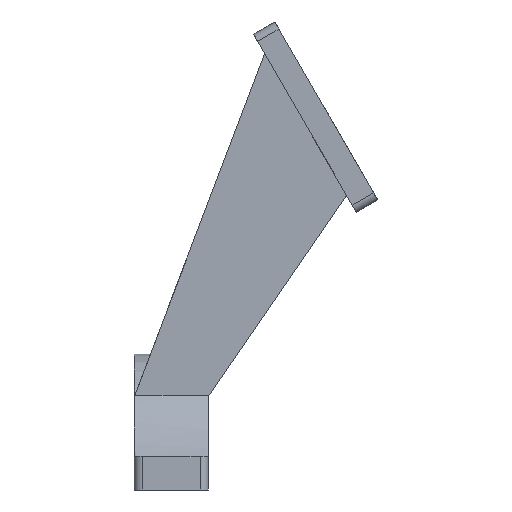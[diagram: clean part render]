
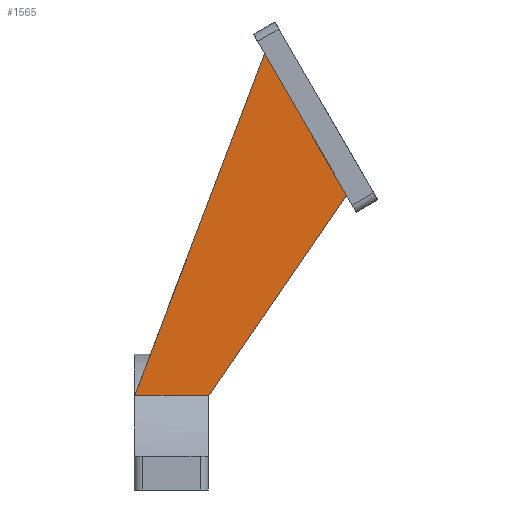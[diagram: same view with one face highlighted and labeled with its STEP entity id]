
A CAD part, front view. The second image highlights one B-rep face of the part: STEP entity #1565.
In plain terms, the highlighted planar face has unit normal (0, -1, 0).
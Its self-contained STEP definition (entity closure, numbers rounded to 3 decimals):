
#33 = CYLINDRICAL_SURFACE('',#34,33.8);
#34 = AXIS2_PLACEMENT_3D('',#35,#36,#37);
#35 = CARTESIAN_POINT('',(-54.,0.,0.));
#36 = DIRECTION('',(-1.,-0.,-0.));
#37 = DIRECTION('',(0.,1.,0.));
#307 = PLANE('',#308);
#308 = AXIS2_PLACEMENT_3D('',#309,#310,#311);
#309 = CARTESIAN_POINT('',(-36.,0.,0.)
  );
#310 = DIRECTION('',(1.,0.,0.));
#311 = DIRECTION('',(-0.,0.,1.));
#454 = VERTEX_POINT('',#455);
#455 = CARTESIAN_POINT('',(-53.886,-24.,23.8));
#473 = PLANE('',#474);
#474 = AXIS2_PLACEMENT_3D('',#475,#476,#477);
#475 = CARTESIAN_POINT('',(-22.048,-20.,107.571));
#476 = DIRECTION('',(0.935,0.,-0.355));
#477 = DIRECTION('',(-0.355,0.,-0.935));
#485 = EDGE_CURVE('',#486,#454,#488,.T.);
#486 = VERTEX_POINT('',#487);
#487 = CARTESIAN_POINT('',(-36.,-24.,23.8));
#488 = SURFACE_CURVE('',#489,(#493,#499),.PCURVE_S1.);
#489 = LINE('',#490,#491);
#490 = CARTESIAN_POINT('',(-54.,-24.,23.8));
#491 = VECTOR('',#492,1.);
#492 = DIRECTION('',(-1.,-0.,-0.));
#493 = PCURVE('',#33,#494);
#494 = DEFINITIONAL_REPRESENTATION('',(#495),#498);
#495 = B_SPLINE_CURVE_WITH_KNOTS('',1,(#496,#497),.UNSPECIFIED.,.F.,.F.,
  (2,2),(-18.,0.),.PIECEWISE_BEZIER_KNOTS.);
#496 = CARTESIAN_POINT('',(-2.36,-18.));
#497 = CARTESIAN_POINT('',(-2.36,0.));
#498 = ( GEOMETRIC_REPRESENTATION_CONTEXT(2) 
PARAMETRIC_REPRESENTATION_CONTEXT() REPRESENTATION_CONTEXT('2D SPACE',''
  ) );
#499 = PCURVE('',#500,#505);
#500 = PLANE('',#501);
#501 = AXIS2_PLACEMENT_3D('',#502,#503,#504);
#502 = CARTESIAN_POINT('',(-28.15,-24.,61.655));
#503 = DIRECTION('',(-0.,-1.,-0.));
#504 = DIRECTION('',(0.,0.,-1.));
#505 = DEFINITIONAL_REPRESENTATION('',(#506),#509);
#506 = B_SPLINE_CURVE_WITH_KNOTS('',1,(#507,#508),.UNSPECIFIED.,.F.,.F.,
  (2,2),(-18.,0.),.PIECEWISE_BEZIER_KNOTS.);
#507 = CARTESIAN_POINT('',(37.855,-7.85));
#508 = CARTESIAN_POINT('',(37.855,-25.85));
#509 = ( GEOMETRIC_REPRESENTATION_CONTEXT(2) 
PARAMETRIC_REPRESENTATION_CONTEXT() REPRESENTATION_CONTEXT('2D SPACE',''
  ) );
#1496 = VERTEX_POINT('',#1497);
#1497 = CARTESIAN_POINT('',(-36.,-24.,23.5));
#1511 = PLANE('',#1512);
#1512 = AXIS2_PLACEMENT_3D('',#1513,#1514,#1515);
#1513 = CARTESIAN_POINT('',(-36.,-20.,23.5));
#1514 = DIRECTION('',(-0.824,0.,0.566));
#1515 = DIRECTION('',(0.566,0.,0.824));
#1523 = EDGE_CURVE('',#486,#1496,#1524,.T.);
#1524 = SURFACE_CURVE('',#1525,(#1529,#1535),.PCURVE_S1.);
#1525 = LINE('',#1526,#1527);
#1526 = CARTESIAN_POINT('',(-36.,-24.,30.828));
#1527 = VECTOR('',#1528,1.);
#1528 = DIRECTION('',(0.,0.,-1.));
#1529 = PCURVE('',#307,#1530);
#1530 = DEFINITIONAL_REPRESENTATION('',(#1531),#1534);
#1531 = B_SPLINE_CURVE_WITH_KNOTS('',1,(#1532,#1533),.UNSPECIFIED.,.F.,
  .F.,(2,2),(-2.972,7.328),.PIECEWISE_BEZIER_KNOTS.);
#1532 = CARTESIAN_POINT('',(33.8,24.));
#1533 = CARTESIAN_POINT('',(23.5,24.));
#1534 = ( GEOMETRIC_REPRESENTATION_CONTEXT(2) 
PARAMETRIC_REPRESENTATION_CONTEXT() REPRESENTATION_CONTEXT('2D SPACE',''
  ) );
#1535 = PCURVE('',#500,#1536);
#1536 = DEFINITIONAL_REPRESENTATION('',(#1537),#1540);
#1537 = B_SPLINE_CURVE_WITH_KNOTS('',1,(#1538,#1539),.UNSPECIFIED.,.F.,
  .F.,(2,2),(-2.972,7.328),.PIECEWISE_BEZIER_KNOTS.);
#1538 = CARTESIAN_POINT('',(27.855,-7.85));
#1539 = CARTESIAN_POINT('',(38.155,-7.85));
#1540 = ( GEOMETRIC_REPRESENTATION_CONTEXT(2) 
PARAMETRIC_REPRESENTATION_CONTEXT() REPRESENTATION_CONTEXT('2D SPACE',''
  ) );
#1565 = ADVANCED_FACE('',(#1566),#500,.T.);
#1566 = FACE_BOUND('',#1567,.T.);
#1567 = EDGE_LOOP('',(#1568,#1569,#1592,#1618,#1639));
#1568 = ORIENTED_EDGE('',*,*,#1523,.T.);
#1569 = ORIENTED_EDGE('',*,*,#1570,.T.);
#1570 = EDGE_CURVE('',#1496,#1571,#1573,.T.);
#1571 = VERTEX_POINT('',#1572);
#1572 = CARTESIAN_POINT('',(-2.361,-24.,72.473));
#1573 = SURFACE_CURVE('',#1574,(#1578,#1585),.PCURVE_S1.);
#1574 = LINE('',#1575,#1576);
#1575 = CARTESIAN_POINT('',(-36.,-24.,23.5));
#1576 = VECTOR('',#1577,1.);
#1577 = DIRECTION('',(0.566,0.,0.824));
#1578 = PCURVE('',#500,#1579);
#1579 = DEFINITIONAL_REPRESENTATION('',(#1580),#1584);
#1580 = LINE('',#1581,#1582);
#1581 = CARTESIAN_POINT('',(38.155,-7.85));
#1582 = VECTOR('',#1583,1.);
#1583 = DIRECTION('',(-0.824,0.566));
#1584 = ( GEOMETRIC_REPRESENTATION_CONTEXT(2) 
PARAMETRIC_REPRESENTATION_CONTEXT() REPRESENTATION_CONTEXT('2D SPACE',''
  ) );
#1585 = PCURVE('',#1511,#1586);
#1586 = DEFINITIONAL_REPRESENTATION('',(#1587),#1591);
#1587 = LINE('',#1588,#1589);
#1588 = CARTESIAN_POINT('',(0.,-4.));
#1589 = VECTOR('',#1590,1.);
#1590 = DIRECTION('',(1.,0.));
#1591 = ( GEOMETRIC_REPRESENTATION_CONTEXT(2) 
PARAMETRIC_REPRESENTATION_CONTEXT() REPRESENTATION_CONTEXT('2D SPACE',''
  ) );
#1592 = ORIENTED_EDGE('',*,*,#1593,.F.);
#1593 = EDGE_CURVE('',#1594,#1571,#1596,.T.);
#1594 = VERTEX_POINT('',#1595);
#1595 = CARTESIAN_POINT('',(-22.277,-24.,106.967));
#1596 = SURFACE_CURVE('',#1597,(#1601,#1607),.PCURVE_S1.);
#1597 = LINE('',#1598,#1599);
#1598 = CARTESIAN_POINT('',(-14.553,-24.,93.588));
#1599 = VECTOR('',#1600,1.);
#1600 = DIRECTION('',(0.5,0.,-0.866));
#1601 = PCURVE('',#500,#1602);
#1602 = DEFINITIONAL_REPRESENTATION('',(#1603),#1606);
#1603 = B_SPLINE_CURVE_WITH_KNOTS('',1,(#1604,#1605),.UNSPECIFIED.,.F.,
  .F.,(2,2),(-16.145,25.01),.PIECEWISE_BEZIER_KNOTS.);
#1604 = CARTESIAN_POINT('',(-45.915,5.525));
#1605 = CARTESIAN_POINT('',(-10.274,26.102));
#1606 = ( GEOMETRIC_REPRESENTATION_CONTEXT(2) 
PARAMETRIC_REPRESENTATION_CONTEXT() REPRESENTATION_CONTEXT('2D SPACE',''
  ) );
#1607 = PCURVE('',#1608,#1613);
#1608 = PLANE('',#1609);
#1609 = AXIS2_PLACEMENT_3D('',#1610,#1611,#1612);
#1610 = CARTESIAN_POINT('',(-24.981,-27.,111.651));
#1611 = DIRECTION('',(0.866,0.,0.5));
#1612 = DIRECTION('',(0.5,0.,-0.866));
#1613 = DEFINITIONAL_REPRESENTATION('',(#1614),#1617);
#1614 = B_SPLINE_CURVE_WITH_KNOTS('',1,(#1615,#1616),.UNSPECIFIED.,.F.,
  .F.,(2,2),(-16.145,25.01),.PIECEWISE_BEZIER_KNOTS.);
#1615 = CARTESIAN_POINT('',(4.711,3.));
#1616 = CARTESIAN_POINT('',(45.866,3.));
#1617 = ( GEOMETRIC_REPRESENTATION_CONTEXT(2) 
PARAMETRIC_REPRESENTATION_CONTEXT() REPRESENTATION_CONTEXT('2D SPACE',''
  ) );
#1618 = ORIENTED_EDGE('',*,*,#1619,.T.);
#1619 = EDGE_CURVE('',#1594,#454,#1620,.T.);
#1620 = SURFACE_CURVE('',#1621,(#1625,#1632),.PCURVE_S1.);
#1621 = LINE('',#1622,#1623);
#1622 = CARTESIAN_POINT('',(-22.048,-24.,107.571));
#1623 = VECTOR('',#1624,1.);
#1624 = DIRECTION('',(-0.355,0.,-0.935));
#1625 = PCURVE('',#500,#1626);
#1626 = DEFINITIONAL_REPRESENTATION('',(#1627),#1631);
#1627 = LINE('',#1628,#1629);
#1628 = CARTESIAN_POINT('',(-45.915,6.102));
#1629 = VECTOR('',#1630,1.);
#1630 = DIRECTION('',(0.935,-0.355));
#1631 = ( GEOMETRIC_REPRESENTATION_CONTEXT(2) 
PARAMETRIC_REPRESENTATION_CONTEXT() REPRESENTATION_CONTEXT('2D SPACE',''
  ) );
#1632 = PCURVE('',#473,#1633);
#1633 = DEFINITIONAL_REPRESENTATION('',(#1634),#1638);
#1634 = LINE('',#1635,#1636);
#1635 = CARTESIAN_POINT('',(-0.,-4.));
#1636 = VECTOR('',#1637,1.);
#1637 = DIRECTION('',(1.,0.));
#1638 = ( GEOMETRIC_REPRESENTATION_CONTEXT(2) 
PARAMETRIC_REPRESENTATION_CONTEXT() REPRESENTATION_CONTEXT('2D SPACE',''
  ) );
#1639 = ORIENTED_EDGE('',*,*,#485,.F.);
